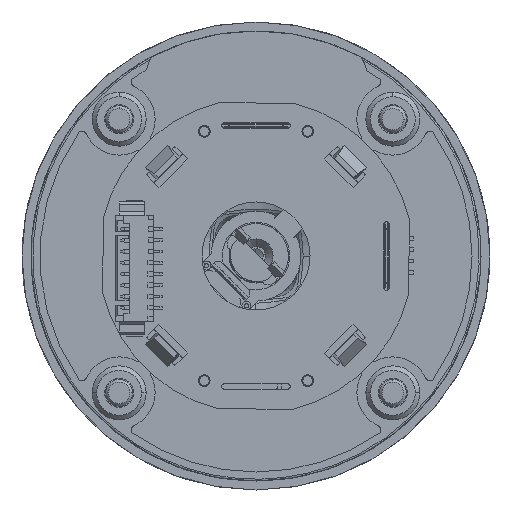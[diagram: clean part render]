
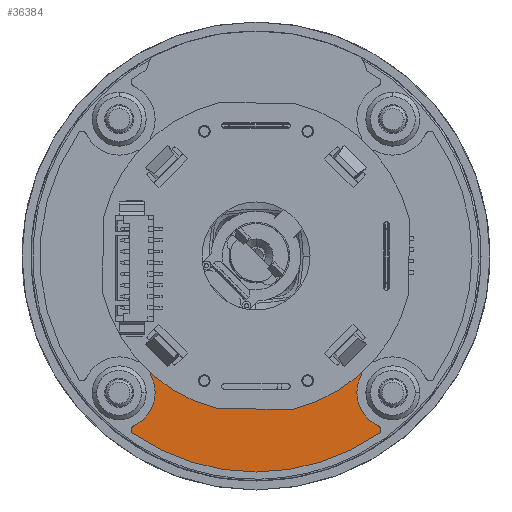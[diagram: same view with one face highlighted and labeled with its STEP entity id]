
A CAD part, front view. The second image highlights one B-rep face of the part: STEP entity #36384.
In plain terms, the highlighted planar face has unit normal (0, -1, 0).
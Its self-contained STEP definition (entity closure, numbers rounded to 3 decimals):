
#35 = VERTEX_POINT ( 'NONE', #43610 ) ;
#695 = ORIENTED_EDGE ( 'NONE', *, *, #39466, .T. ) ;
#2061 = DIRECTION ( 'NONE',  ( -0.707, 0., -0.707 ) ) ;
#2453 = AXIS2_PLACEMENT_3D ( 'NONE', #15719, #60626, #41830 ) ;
#3322 = VERTEX_POINT ( 'NONE', #28593 ) ;
#4314 = ORIENTED_EDGE ( 'NONE', *, *, #113826, .F. ) ;
#7071 = AXIS2_PLACEMENT_3D ( 'NONE', #34956, #98591, #71909 ) ;
#7165 = VERTEX_POINT ( 'NONE', #93231 ) ;
#8233 = CIRCLE ( 'NONE', #2453, 0.5 ) ;
#8318 = VERTEX_POINT ( 'NONE', #47205 ) ;
#9594 = DIRECTION ( 'NONE',  ( 0., -1., 0. ) ) ;
#9816 = CIRCLE ( 'NONE', #42757, 0.5 ) ;
#11467 = CARTESIAN_POINT ( 'NONE',  ( -10.927, 9., -12.695 ) ) ;
#12169 = CARTESIAN_POINT ( 'NONE',  ( 11.281, 9., -12.341 ) ) ;
#12361 = CIRCLE ( 'NONE', #51091, 16.25 ) ;
#13742 = ORIENTED_EDGE ( 'NONE', *, *, #60463, .F. ) ;
#15191 = DIRECTION ( 'NONE',  ( 0., -1., 0. ) ) ;
#15719 = CARTESIAN_POINT ( 'NONE',  ( 11.262, 9., -13.03 ) ) ;
#16635 = EDGE_LOOP ( 'NONE', ( #115067, #695, #26978, #59085, #104253, #81182, #76161, #41246, #67160, #13742, #4314, #75561, #81478, #32087 ) ) ;
#17072 = DIRECTION ( 'NONE',  ( 0., -1., 0. ) ) ;
#18282 = VERTEX_POINT ( 'NONE', #38563 ) ;
#19232 = DIRECTION ( 'NONE',  ( 0., -1., 0. ) ) ;
#20210 = EDGE_CURVE ( 'NONE', #115690, #3322, #62974, .T. ) ;
#24903 = CARTESIAN_POINT ( 'NONE',  ( 13.382, 9., -19.318 ) ) ;
#26978 = ORIENTED_EDGE ( 'NONE', *, *, #20210, .T. ) ;
#27486 = VERTEX_POINT ( 'NONE', #12169 ) ;
#27617 = EDGE_CURVE ( 'NONE', #85679, #94003, #96818, .T. ) ;
#28391 = CIRCLE ( 'NONE', #7071, 0.5 ) ;
#28593 = CARTESIAN_POINT ( 'NONE',  ( 0., 9., -24. ) ) ;
#29457 = AXIS2_PLACEMENT_3D ( 'NONE', #115959, #42610, #32933 ) ;
#30170 = AXIS2_PLACEMENT_3D ( 'NONE', #92584, #19232, #74420 ) ;
#32087 = ORIENTED_EDGE ( 'NONE', *, *, #63603, .T. ) ;
#32191 = VECTOR ( 'NONE', #2061, 1000. ) ;
#32933 = DIRECTION ( 'NONE',  ( 0., 0., -1. ) ) ;
#33003 = AXIS2_PLACEMENT_3D ( 'NONE', #86439, #104640, #58565 ) ;
#33783 = DIRECTION ( 'NONE',  ( 0., 0., -1. ) ) ;
#33896 = EDGE_CURVE ( 'NONE', #18282, #7165, #76046, .T. ) ;
#34871 = CARTESIAN_POINT ( 'NONE',  ( 11.616, 9., -12.676 ) ) ;
#34956 = CARTESIAN_POINT ( 'NONE',  ( -11.262, 9., -13.03 ) ) ;
#36384 = ADVANCED_FACE ( 'NONE', ( #110877 ), #92666, .T. ) ;
#37669 = VECTOR ( 'NONE', #62698, 1000. ) ;
#38563 = CARTESIAN_POINT ( 'NONE',  ( -11.281, 9., -12.341 ) ) ;
#39466 = EDGE_CURVE ( 'NONE', #100835, #115690, #75410, .T. ) ;
#41246 = ORIENTED_EDGE ( 'NONE', *, *, #58802, .T. ) ;
#41830 = DIRECTION ( 'NONE',  ( 0., 0., -1. ) ) ;
#42610 = DIRECTION ( 'NONE',  ( 0., -1., 0. ) ) ;
#42757 = AXIS2_PLACEMENT_3D ( 'NONE', #89735, #15191, #117638 ) ;
#43610 = CARTESIAN_POINT ( 'NONE',  ( -11.7, 9., -13.271 ) ) ;
#43938 = CARTESIAN_POINT ( 'NONE',  ( -13.666, 9., -19.729 ) ) ;
#46470 = AXIS2_PLACEMENT_3D ( 'NONE', #24903, #70360, #61286 ) ;
#47205 = CARTESIAN_POINT ( 'NONE',  ( 0., 9., -16.25 ) ) ;
#50827 = VERTEX_POINT ( 'NONE', #58760 ) ;
#51064 = CARTESIAN_POINT ( 'NONE',  ( 13.584, 9., -18.861 ) ) ;
#51091 = AXIS2_PLACEMENT_3D ( 'NONE', #64947, #17072, #81951 ) ;
#51139 = DIRECTION ( 'NONE',  ( 0., 0., -1. ) ) ;
#53292 = CARTESIAN_POINT ( 'NONE',  ( 11.7, 9., -13.271 ) ) ;
#56896 = CARTESIAN_POINT ( 'NONE',  ( 0., 9., 0. ) ) ;
#58565 = DIRECTION ( 'NONE',  ( 0., 0., -1. ) ) ;
#58760 = CARTESIAN_POINT ( 'NONE',  ( 10.601, 9., -12.316 ) ) ;
#58802 = EDGE_CURVE ( 'NONE', #113977, #27486, #116669, .T. ) ;
#59085 = ORIENTED_EDGE ( 'NONE', *, *, #102651, .T. ) ;
#59990 = CIRCLE ( 'NONE', #75453, 16.25 ) ;
#60463 = EDGE_CURVE ( 'NONE', #8318, #50827, #12361, .T. ) ;
#60626 = DIRECTION ( 'NONE',  ( 0., -1., 0. ) ) ;
#61286 = DIRECTION ( 'NONE',  ( 0., 0., -1. ) ) ;
#61674 = AXIS2_PLACEMENT_3D ( 'NONE', #56896, #9594, #101751 ) ;
#62059 = CARTESIAN_POINT ( 'NONE',  ( -13.584, 9., -18.861 ) ) ;
#62390 = AXIS2_PLACEMENT_3D ( 'NONE', #115019, #116809, #33783 ) ;
#62698 = DIRECTION ( 'NONE',  ( -0.707, 0., 0.707 ) ) ;
#62974 = CIRCLE ( 'NONE', #30170, 24. ) ;
#63603 = EDGE_CURVE ( 'NONE', #7165, #35, #28391, .T. ) ;
#64947 = CARTESIAN_POINT ( 'NONE',  ( 0., 9., 0. ) ) ;
#66217 = CIRCLE ( 'NONE', #29457, 24. ) ;
#67160 = ORIENTED_EDGE ( 'NONE', *, *, #89335, .T. ) ;
#67256 = DIRECTION ( 'NONE',  ( 0., 0., -1. ) ) ;
#67291 = CARTESIAN_POINT ( 'NONE',  ( -10.601, 9., -12.316 ) ) ;
#68744 = CARTESIAN_POINT ( 'NONE',  ( -13.382, 9., -19.318 ) ) ;
#70174 = CIRCLE ( 'NONE', #62390, 4. ) ;
#70360 = DIRECTION ( 'NONE',  ( 0., -1., 0. ) ) ;
#71909 = DIRECTION ( 'NONE',  ( 0., 0., -1. ) ) ;
#74420 = DIRECTION ( 'NONE',  ( 0., 0., -1. ) ) ;
#75410 = CIRCLE ( 'NONE', #95853, 0.5 ) ;
#75453 = AXIS2_PLACEMENT_3D ( 'NONE', #112532, #83468, #103419 ) ;
#75561 = ORIENTED_EDGE ( 'NONE', *, *, #91662, .T. ) ;
#76046 = LINE ( 'NONE', #95405, #32191 ) ;
#76161 = ORIENTED_EDGE ( 'NONE', *, *, #77758, .T. ) ;
#76770 = VERTEX_POINT ( 'NONE', #53292 ) ;
#77167 = EDGE_CURVE ( 'NONE', #76770, #94003, #70174, .T. ) ;
#77758 = EDGE_CURVE ( 'NONE', #76770, #113977, #8233, .T. ) ;
#81182 = ORIENTED_EDGE ( 'NONE', *, *, #77167, .F. ) ;
#81478 = ORIENTED_EDGE ( 'NONE', *, *, #33896, .T. ) ;
#81491 = CARTESIAN_POINT ( 'NONE',  ( 11.894, 9., -12.955 ) ) ;
#81951 = DIRECTION ( 'NONE',  ( 0., 0., -1. ) ) ;
#83468 = DIRECTION ( 'NONE',  ( 0., -1., 0. ) ) ;
#83913 = VERTEX_POINT ( 'NONE', #67291 ) ;
#85679 = VERTEX_POINT ( 'NONE', #90400 ) ;
#86439 = CARTESIAN_POINT ( 'NONE',  ( -15.203, 9., -15.203 ) ) ;
#89288 = CIRCLE ( 'NONE', #116375, 0.5 ) ;
#89335 = EDGE_CURVE ( 'NONE', #27486, #50827, #9816, .T. ) ;
#89735 = CARTESIAN_POINT ( 'NONE',  ( 10.927, 9., -12.695 ) ) ;
#90400 = CARTESIAN_POINT ( 'NONE',  ( 13.666, 9., -19.729 ) ) ;
#91662 = EDGE_CURVE ( 'NONE', #83913, #18282, #89288, .T. ) ;
#92584 = CARTESIAN_POINT ( 'NONE',  ( 0., 9., 0. ) ) ;
#92666 = PLANE ( 'NONE',  #61674 ) ;
#93231 = CARTESIAN_POINT ( 'NONE',  ( -11.616, 9., -12.676 ) ) ;
#93928 = DIRECTION ( 'NONE',  ( 0., -1., 0. ) ) ;
#94003 = VERTEX_POINT ( 'NONE', #51064 ) ;
#95405 = CARTESIAN_POINT ( 'NONE',  ( -11.281, 9., -12.341 ) ) ;
#95853 = AXIS2_PLACEMENT_3D ( 'NONE', #68744, #105125, #51139 ) ;
#96818 = CIRCLE ( 'NONE', #46470, 0.5 ) ;
#98591 = DIRECTION ( 'NONE',  ( 0., -1., 0. ) ) ;
#100835 = VERTEX_POINT ( 'NONE', #62059 ) ;
#101751 = DIRECTION ( 'NONE',  ( 0., 0., -1. ) ) ;
#102651 = EDGE_CURVE ( 'NONE', #3322, #85679, #66217, .T. ) ;
#103419 = DIRECTION ( 'NONE',  ( 0., 0., -1. ) ) ;
#104253 = ORIENTED_EDGE ( 'NONE', *, *, #27617, .T. ) ;
#104640 = DIRECTION ( 'NONE',  ( 0., -1., 0. ) ) ;
#105125 = DIRECTION ( 'NONE',  ( 0., -1., 0. ) ) ;
#110877 = FACE_OUTER_BOUND ( 'NONE', #16635, .T. ) ;
#112414 = CIRCLE ( 'NONE', #33003, 4. ) ;
#112532 = CARTESIAN_POINT ( 'NONE',  ( 0., 9., 0. ) ) ;
#113826 = EDGE_CURVE ( 'NONE', #83913, #8318, #59990, .T. ) ;
#113907 = EDGE_CURVE ( 'NONE', #100835, #35, #112414, .T. ) ;
#113977 = VERTEX_POINT ( 'NONE', #34871 ) ;
#115019 = CARTESIAN_POINT ( 'NONE',  ( 15.203, 9., -15.203 ) ) ;
#115067 = ORIENTED_EDGE ( 'NONE', *, *, #113907, .F. ) ;
#115690 = VERTEX_POINT ( 'NONE', #43938 ) ;
#115959 = CARTESIAN_POINT ( 'NONE',  ( 0., 9., 0. ) ) ;
#116375 = AXIS2_PLACEMENT_3D ( 'NONE', #11467, #93928, #67256 ) ;
#116669 = LINE ( 'NONE', #81491, #37669 ) ;
#116809 = DIRECTION ( 'NONE',  ( 0., -1., 0. ) ) ;
#117638 = DIRECTION ( 'NONE',  ( 0., 0., -1. ) ) ;
